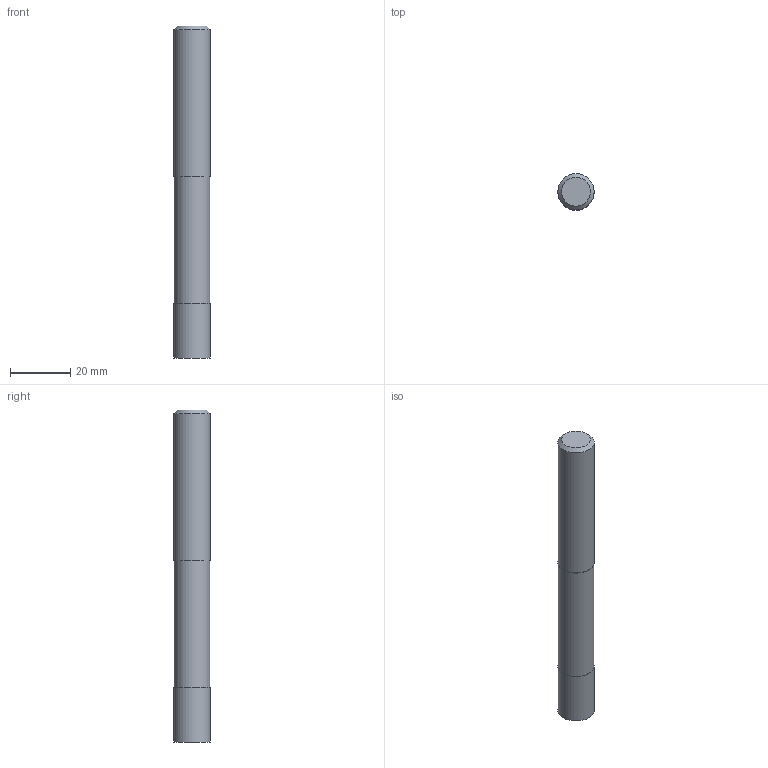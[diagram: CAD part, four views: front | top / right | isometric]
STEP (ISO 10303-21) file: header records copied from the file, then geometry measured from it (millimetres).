
FILE_DESCRIPTION((''),'2;1');
FILE_NAME('C:\Users\nsx150\AppData\Local\Temp\Mastercam 2021\EUJSUNXURU\TEMP.step','2021-04-22T10:30:31',(''),(''),'STEP Write','Mastercam 2021 ... CNC Software, Inc.','');
FILE_SCHEMA(('AUTOMOTIVE_DESIGN'));
Length unit declared in the file: millimetre
Products named in the file (1): None
Bounding box: 12 x 12 x 110 mm (x, y, z)
Volume: 12258.4 mm3; surface area: 4544.5 mm2
Topology: 2 solids, 2 shells, 9 faces, 11 edges, 7 vertices
Faces by surface type: plane 5, cylinder 3, cone 1
Full cylindrical faces by diameter (mm): 11.8 x1, 12 x2
Entity records: 211 total; most frequent: DIRECTION 36, CARTESIAN_POINT 25, AXIS2_PLACEMENT_3D 18, ORIENTED_EDGE 14, EDGE_LOOP 14, STYLED_ITEM 12, ADVANCED_FACE 9, FACE_BOUND 8
